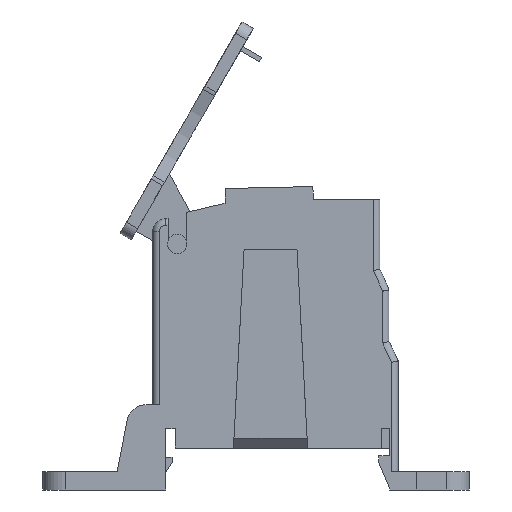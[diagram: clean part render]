
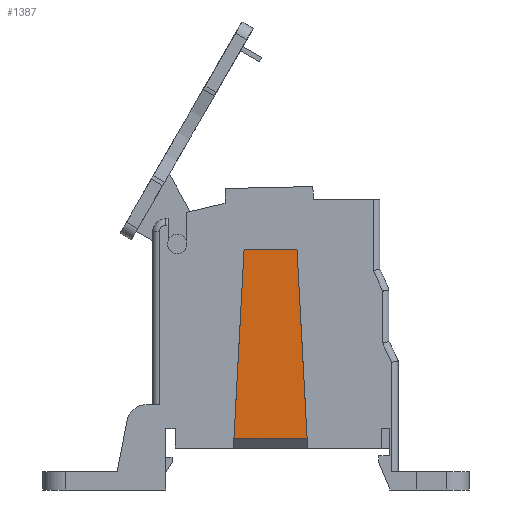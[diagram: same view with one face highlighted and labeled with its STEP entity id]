
A CAD part, front view. The second image highlights one B-rep face of the part: STEP entity #1387.
In plain terms, the highlighted planar face has unit normal (0, -1, 0).
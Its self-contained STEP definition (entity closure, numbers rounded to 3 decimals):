
#8 = ORIENTED_EDGE ( 'NONE', *, *, #1125, .T. ) ;
#34 = ORIENTED_EDGE ( 'NONE', *, *, #1133, .T. ) ;
#48 = ORIENTED_EDGE ( 'NONE', *, *, #1129, .T. ) ;
#54 = ORIENTED_EDGE ( 'NONE', *, *, #1126, .T. ) ;
#1125 = EDGE_CURVE ( 'NONE', #2775, #2776, #8120, .T. ) ;
#1126 = EDGE_CURVE ( 'NONE', #2774, #2775, #8122, .T. ) ;
#1129 = EDGE_CURVE ( 'NONE', #2773, #2774, #8133, .T. ) ;
#1133 = EDGE_CURVE ( 'NONE', #2776, #2773, #8141, .T. ) ;
#1387 = ADVANCED_FACE ( 'NONE', ( #8570 ), #10136, .T. ) ;
#1829 = EDGE_LOOP ( 'NONE', ( #8, #34, #48, #54 ) ) ;
#2773 = VERTEX_POINT ( 'NONE', #10620 ) ;
#2774 = VERTEX_POINT ( 'NONE', #10621 ) ;
#2775 = VERTEX_POINT ( 'NONE', #10622 ) ;
#2776 = VERTEX_POINT ( 'NONE', #10623 ) ;
#4661 = AXIS2_PLACEMENT_3D ( 'NONE', #10131, #10141, #10142 ) ;
#7490 = CARTESIAN_POINT ( 'NONE',  ( -1.85, -15.8, 37.2 ) ) ;
#7492 = CARTESIAN_POINT ( 'NONE',  ( 6.35, -15.8, 37.2 ) ) ;
#7494 = DIRECTION ( 'NONE',  ( -0.054, 0., -0.999 ) ) ;
#7496 = DIRECTION ( 'NONE',  ( -1., 0., 0. ) ) ;
#7501 = CARTESIAN_POINT ( 'NONE',  ( 6.35, -15.8, 37.2 ) ) ;
#7502 = DIRECTION ( 'NONE',  ( -0.054, 0., 0.999 ) ) ;
#7509 = CARTESIAN_POINT ( 'NONE',  ( 8., -15.8, 8. ) ) ;
#7510 = DIRECTION ( 'NONE',  ( 1., 0., 0. ) ) ;
#8120 = LINE ( 'NONE', #7490, #8125 ) ;
#8122 = LINE ( 'NONE', #7492, #8127 ) ;
#8125 = VECTOR ( 'NONE', #7494, 1000. ) ;
#8127 = VECTOR ( 'NONE', #7496, 1000. ) ;
#8133 = LINE ( 'NONE', #7501, #8134 ) ;
#8134 = VECTOR ( 'NONE', #7502, 1000. ) ;
#8141 = LINE ( 'NONE', #7509, #8142 ) ;
#8142 = VECTOR ( 'NONE', #7510, 1000. ) ;
#8570 = FACE_OUTER_BOUND ( 'NONE', #1829, .T. ) ;
#10131 = CARTESIAN_POINT ( 'NONE',  ( 8., -15.8, 6.5 ) ) ;
#10136 = PLANE ( 'NONE',  #4661 ) ;
#10141 = DIRECTION ( 'NONE',  ( 0., -1., 0. ) ) ;
#10142 = DIRECTION ( 'NONE',  ( 0., 0., -1. ) ) ;
#10620 = CARTESIAN_POINT ( 'NONE',  ( 7.919, -15.8, 8. ) ) ;
#10621 = CARTESIAN_POINT ( 'NONE',  ( 6.35, -15.8, 37.2 ) ) ;
#10622 = CARTESIAN_POINT ( 'NONE',  ( -1.85, -15.8, 37.2 ) ) ;
#10623 = CARTESIAN_POINT ( 'NONE',  ( -3.419, -15.8, 8. ) ) ;
